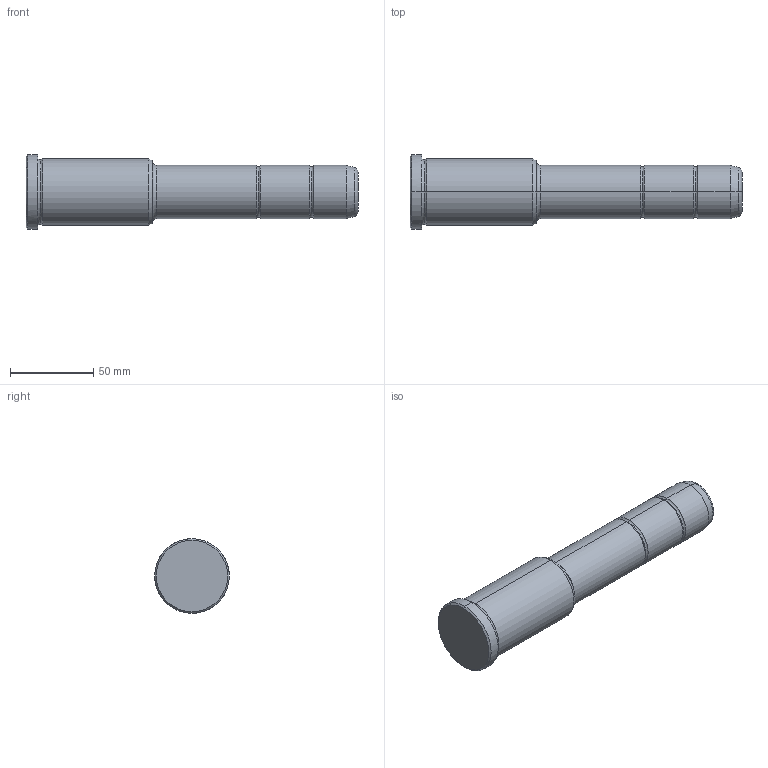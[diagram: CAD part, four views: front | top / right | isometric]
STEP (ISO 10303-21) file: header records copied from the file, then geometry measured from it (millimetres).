
FILE_DESCRIPTION(('CATIA V5 STEP Exchange'),'2;1');
FILE_NAME('C:\Users\Utente\Desktop\IO LAVORO\3D X SITO CF\X SITO\PLASTICA\351\351-32X76X200.stp','2021-09-07T13:52:47+00:00',('none'),('none'),'CATIA Version 5 Release 20 GA (IN-10)','CATIA V5 STEP AP203','none');
FILE_SCHEMA(('CONFIG_CONTROL_DESIGN'));
Length unit declared in the file: millimetre
Products named in the file (1): 351-32X76X200
Bounding box: 200 x 45 x 45 mm (x, y, z)
Volume: 196362.4 mm3; surface area: 24877.8 mm2
Topology: 1 solids, 1 shells, 36 faces, 102 edges, 70 vertices
Faces by surface type: torus 16, cylinder 10, cone 6, plane 4
Entity records: 1292 total; most frequent: CARTESIAN_POINT 321, ORIENTED_EDGE 204, DIRECTION 166, AXIS2_PLACEMENT_3D 115, EDGE_CURVE 102, CIRCLE 78, VERTEX_POINT 70, EDGE_LOOP 38
